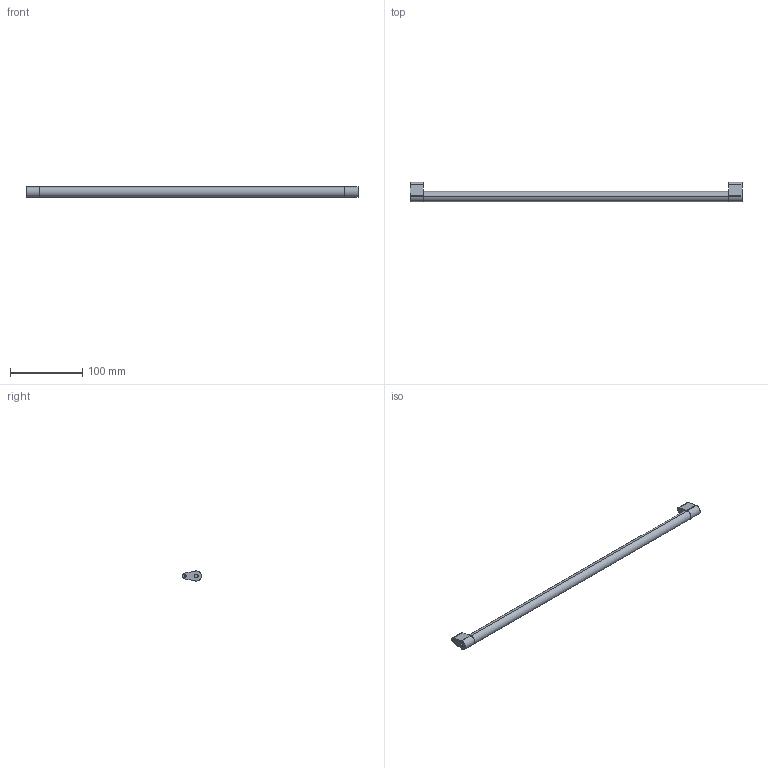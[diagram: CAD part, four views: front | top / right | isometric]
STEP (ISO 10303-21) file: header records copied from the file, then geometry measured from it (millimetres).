
FILE_DESCRIPTION (( 'STEP AP214' ), '1' );
FILE_NAME ('_Synchronisationseinheit Nova Pro KAB550_S19.step', '2010-07-08T13:58:43', ( 'grass' ), ( '' ), 'SwSTEP 2.0', 'SolidWorks 2010', '' );
FILE_SCHEMA (( 'AUTOMOTIVE_DESIGN' ));
Length unit declared in the file: millimetre
Products named in the file (1): _Synchronisationseinheit Nova Pro KAB550_S19
Bounding box: 459 x 26.5 x 14 mm (x, y, z)
Volume: 74344.4 mm3; surface area: 23034.9 mm2
Topology: 3 solids, 3 shells, 36 faces, 78 edges, 52 vertices
Faces by surface type: cylinder 18, plane 18
Entity records: 1050 total; most frequent: DIRECTION 188, CARTESIAN_POINT 167, ORIENTED_EDGE 156, EDGE_CURVE 78, AXIS2_PLACEMENT_3D 73, VERTEX_POINT 52, LINE 42, VECTOR 42
